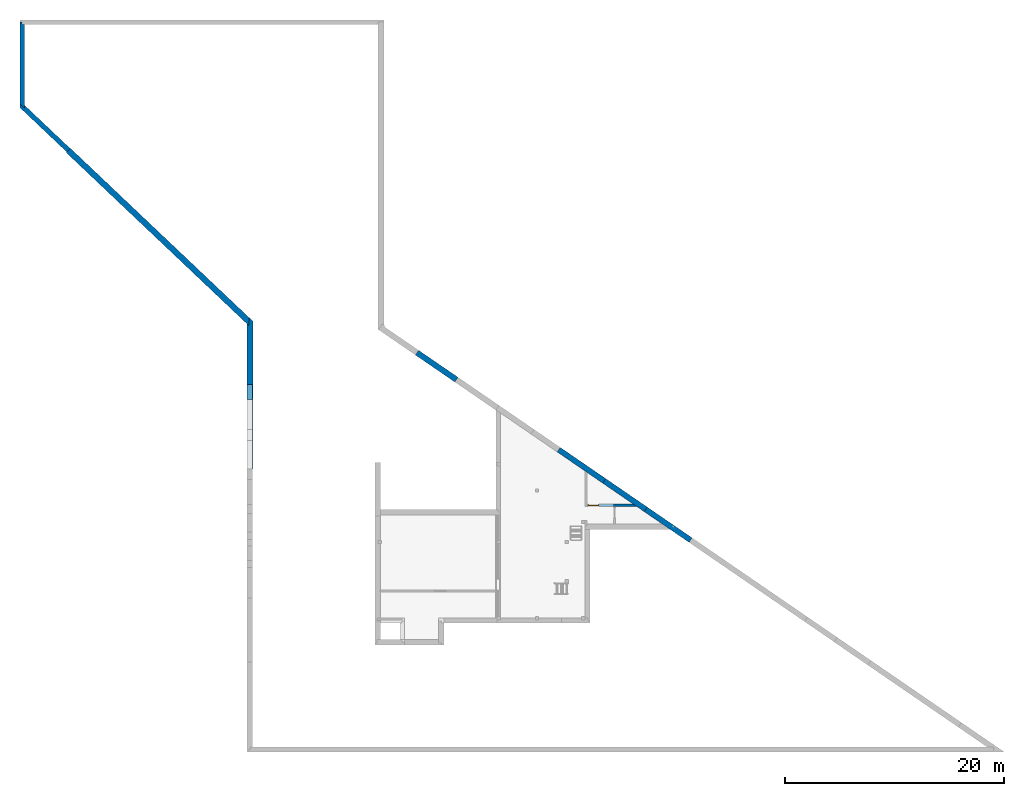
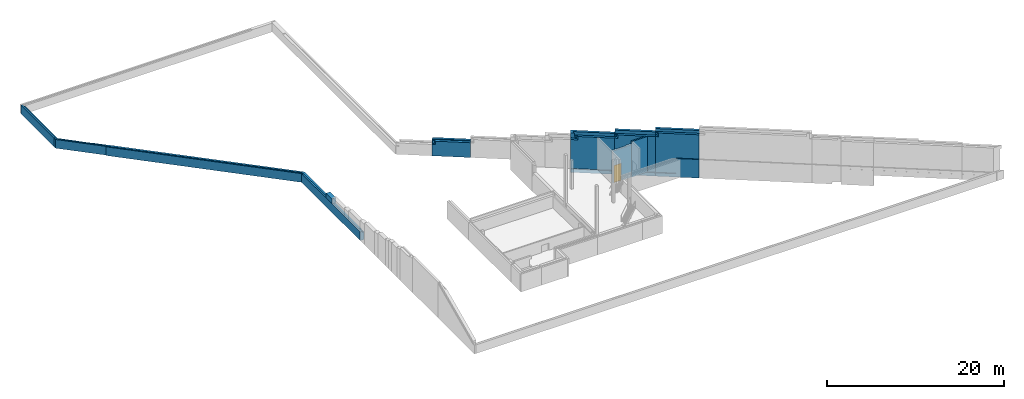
# One storey, part 7 of 8: 10 walls, 1 door, 1 opening, plus 1 element that does not belong to this part.
"""IFC2X3 building model written with IfcOpenShell, lengths in millimetres."""

import ifcopenshell
import ifcopenshell.guid

model = None  # the IFC model being written
_history = None  # IfcOwnerHistory: only IFC2X3 demands one
_inside = {}  # id of a spatial element -> (the spatial element, [elements in it])
_under = {}  # id of a project, library or spatial element -> (it, [spatial elements below it])
_declared = {}  # id of a project -> (the project, [libraries it declares])
_typed = {}  # id of a type object -> (the type object, [elements of that type])
_made_of = {}  # id of a material, layer set ... -> (it, [elements and type objects made of it])


def new_model(schema):
    """Start an empty IFC model of exactly this schema.

    Asked for "IFC4X3", IfcOpenShell would pick the latest addendum, in which some entities
    have other attributes; the version numbers below select the first issue.
    IFC2X3 requires an IfcOwnerHistory on every rooted entity: one is made here for all.
    """
    global model, _history
    if schema == "IFC4X3":
        model = ifcopenshell.file(schema_version=(4, 3, 0, 0))
    else:
        model = ifcopenshell.file(schema=schema)
    _inside.clear()
    _under.clear()
    _declared.clear()
    _typed.clear()
    _made_of.clear()
    _history = None
    if model.schema == "IFC2X3":
        org = make("IfcOrganization", Name="unknown")
        user = make(
            "IfcPersonAndOrganization",
            ThePerson=make("IfcPerson", FamilyName="unknown"),
            TheOrganization=org,
        )
        app = make(
            "IfcApplication",
            ApplicationDeveloper=org,
            Version="unknown",
            ApplicationFullName="unknown",
            ApplicationIdentifier="unknown",
        )
        _history = make(
            "IfcOwnerHistory",
            OwningUser=user,
            OwningApplication=app,
            ChangeAction="ADDED",
            CreationDate=0,
        )
    return model


def make(cls, **values):
    """One entity of the class cls with the attributes given. An attribute that is None is left unset."""
    return model.create_entity(
        cls, **{name: value for name, value in values.items() if value is not None}
    )


def entity(cls, *values):
    """Any entity or typed value of the class cls, its attributes in the order of the schema. None: left unset."""
    e = model.create_entity(cls)
    for i, value in enumerate(values):
        if value is not None:
            e[i] = value
    return e


def rooted(cls, **values):
    """An entity with a GlobalId (a new one), such as an element, a storey or a relation."""
    return make(cls, GlobalId=ifcopenshell.guid.new(), OwnerHistory=_history, **values)


def si_unit(unit_type, name, prefix=None):
    """IfcSIUnit, for example si_unit("LENGTHUNIT", "METRE", prefix="MILLI")."""
    return make("IfcSIUnit", UnitType=unit_type, Prefix=prefix, Name=name)


def converted_unit(unit_type, name, factor, base, dimensions=None, offset=None):
    """IfcConversionBasedUnit, such as the inch: factor (a typed value) times the base unit."""
    return make(
        "IfcConversionBasedUnit"
        if offset is None
        else "IfcConversionBasedUnitWithOffset",
        ConversionOffset=offset,
        Dimensions=None
        if dimensions is None
        else entity("IfcDimensionalExponents", *dimensions),
        UnitType=unit_type,
        Name=name,
        ConversionFactor=make(
            "IfcMeasureWithUnit", ValueComponent=factor, UnitComponent=base
        ),
    )


def derived_unit(unit_type, elements):
    """IfcDerivedUnit: a product of units, each with its exponent."""
    return make(
        "IfcDerivedUnit",
        Elements=[
            make("IfcDerivedUnitElement", Unit=unit, Exponent=power)
            for unit, power in elements
        ],
        UnitType=unit_type,
    )


def money_unit(currency):
    """IfcMonetaryUnit."""
    return make("IfcMonetaryUnit", Currency=currency)


def assignment(units):
    """IfcUnitAssignment: the units of a project."""
    return None if units is None else make("IfcUnitAssignment", Units=units)


def point(xyz):
    """IfcCartesianPoint."""
    return None if xyz is None else make("IfcCartesianPoint", Coordinates=xyz)


def direction(xyz):
    """IfcDirection."""
    return None if xyz is None else make("IfcDirection", DirectionRatios=xyz)


def frame(location, z_axis=None, x_axis=None):
    """IfcAxis2Placement3D, a coordinate frame: its origin and axes. An axis left out is left unset."""
    return make(
        "IfcAxis2Placement3D",
        Location=point(location),
        Axis=direction(z_axis),
        RefDirection=direction(x_axis),
    )


def origin_with_axes():
    """The frame at (0, 0, 0) with the z axis (0, 0, 1) and the x axis (1, 0, 0) written out."""
    return frame((0.0, 0.0, 0.0), z_axis=(0.0, 0.0, 1.0), x_axis=(1.0, 0.0, 0.0))


def place(relative_to, where):
    """IfcLocalPlacement: puts the frame where relative to a parent placement (None: the world)."""
    return make(
        "IfcLocalPlacement", PlacementRelTo=relative_to, RelativePlacement=where
    )


def context(
    kind, dimensions, precision=None, world=None, true_north=None, identifier=None
):
    """IfcGeometricRepresentationContext, for example the 3D "Model" context."""
    return make(
        "IfcGeometricRepresentationContext",
        ContextIdentifier=identifier,
        ContextType=kind,
        CoordinateSpaceDimension=dimensions,
        Precision=precision,
        WorldCoordinateSystem=world,
        TrueNorth=true_north,
    )


def subcontext(parent, identifier, kind, view, scale=None):
    """IfcGeometricRepresentationSubContext, for example "Body" below "Model"."""
    return make(
        "IfcGeometricRepresentationSubContext",
        ContextIdentifier=identifier,
        ContextType=kind,
        ParentContext=parent,
        TargetScale=scale,
        TargetView=view,
    )


def project(units=None, contexts=None):
    """IfcProject with its units and contexts."""
    return rooted(
        "IfcProject",
        Name="project",
        RepresentationContexts=contexts,
        UnitsInContext=assignment(units),
    )


def spatial(cls, under=None, at=None, **own):
    """A site, building, storey or space (cls), placed at a placement, below another one or the project."""
    s = rooted(cls, ObjectPlacement=at, **own)
    if under is not None:
        _under.setdefault(under.id(), (under, []))[1].append(s)
    return s


def faces_of(points, faces, orient=None, outer=None):
    """IfcFace entities. A face is a list of loops; a loop is a list of indices into points, from 0.

    orient and outer hold one flag for each loop. By default every Orientation is true, the
    first loop of a face is its IfcFaceOuterBound and the others are IfcFaceBound.
    """
    made = []
    for i, loops in enumerate(faces):
        bounds = []
        for j, loop in enumerate(loops):
            is_outer = j == 0 if outer is None else outer[i][j]
            bounds.append(
                make(
                    "IfcFaceOuterBound" if is_outer else "IfcFaceBound",
                    Bound=make("IfcPolyLoop", Polygon=[points[k] for k in loop]),
                    Orientation=True if orient is None else orient[i][j],
                )
            )
        made.append(make("IfcFace", Bounds=bounds))
    return made


def faceted_brep(points, faces, orient=None, outer=None, voids=None):
    """IfcFacetedBrep: a solid bounded by flat faces; with voids (closed shells), ...WithVoids."""
    shared = [point(p) for p in points]
    hull = make("IfcClosedShell", CfsFaces=faces_of(shared, faces, orient, outer))
    if voids is None:
        return make("IfcFacetedBrep", Outer=hull)
    return make(
        "IfcFacetedBrepWithVoids",
        Outer=hull,
        Voids=[
            make(cls, CfsFaces=faces_of(shared, fs, o, b)) for cls, fs, o, b in voids
        ],
    )


def shape(context_of_items, identifier, shape_type, items):
    """IfcShapeRepresentation: the items that make up one representation, for example the "Body"."""
    return make(
        "IfcShapeRepresentation",
        ContextOfItems=context_of_items,
        RepresentationIdentifier=identifier,
        RepresentationType=shape_type,
        Items=items,
    )


def material(Name=None, Category=None):
    """IfcMaterial."""
    return make("IfcMaterial", Name=Name, Category=Category)


def material_list(materials):
    """IfcMaterialList."""
    return make("IfcMaterialList", Materials=materials)


def made_of(thing, what):
    """Note that an element or type object is made of a material, layer set ...; save() writes the relation."""
    if what is not None:
        _made_of.setdefault(what.id(), (what, []))[1].append(thing)
    return thing


def type_object(cls, material=None, **own):
    """A type object (cls), such as IfcWallType, which elements share."""
    return made_of(rooted(cls, **own), material)


def element(
    cls,
    number,
    at=None,
    inside=None,
    cuts=None,
    type_object=None,
    material=None,
    context=None,
    identifier="Body",
    shape_type=None,
    held_by="IfcProductDefinitionShape",
    body=None,
    shapes=None,
    **own,
):
    """One element of the class cls, such as IfcWall. Its Tag is "e" and its number.

    at: its placement. inside: the storey or other place that contains it. cuts: it is an
    opening in that element (IfcRelVoidsElement). A single representation is given by context,
    identifier, shape_type and body (its items); several are given by shapes. held_by: the class
    of the entity that holds the representations. save() writes the other relations.
    """
    e = rooted(cls, Tag="e%d" % number, ObjectPlacement=at, **own)
    if body is not None:
        shapes = [shape(context, identifier, shape_type, body)]
    if shapes is not None:
        e.Representation = make(held_by, Representations=shapes)
    if inside is not None:
        _inside.setdefault(inside.id(), (inside, []))[1].append(e)
    if cuts is not None:
        rooted(
            "IfcRelVoidsElement", RelatingBuildingElement=cuts, RelatedOpeningElement=e
        )
    if type_object is not None:
        _typed.setdefault(type_object.id(), (type_object, []))[1].append(e)
    return made_of(e, material)


def fill(opening, filler):
    """IfcRelFillsElement: the door or window that sits in an opening."""
    return rooted(
        "IfcRelFillsElement",
        RelatingOpeningElement=opening,
        RelatedBuildingElement=filler,
    )


def aggregate(whole, parts):
    """IfcRelAggregates: a whole, such as a stair, and the parts it consists of."""
    return rooted("IfcRelAggregates", RelatingObject=whole, RelatedObjects=parts)


def save(model, path):
    """Write the relations noted so far, then the file.

    IfcRelAggregates (storeys below a building ...), IfcRelContainedInSpatialStructure (elements
    in a storey), IfcRelDefinesByType, IfcRelAssociatesMaterial and IfcRelDeclares: one each for
    every whole, place, type object, material and project.
    """
    for whole, parts in _under.values():
        aggregate(whole, parts)
    for where, things in _inside.values():
        rooted(
            "IfcRelContainedInSpatialStructure",
            RelatedElements=things,
            RelatingStructure=where,
        )
    for kind, things in _typed.values():
        rooted("IfcRelDefinesByType", RelatedObjects=things, RelatingType=kind)
    for what, things in _made_of.values():
        rooted("IfcRelAssociatesMaterial", RelatedObjects=things, RelatingMaterial=what)
    for by, libraries in _declared.values():
        rooted("IfcRelDeclares", RelatingContext=by, RelatedDefinitions=libraries)
    model.write(path)


model = new_model("IFC2X3")

# Units and contexts
model_context = context("Model", 3, precision=0.01, world=origin_with_axes(), true_north=direction((0.0, 1.0)))
body_context = subcontext(model_context, "Body", "Model", "MODEL_VIEW")
ifc_project = project(units=[si_unit("LENGTHUNIT", "METRE", prefix="MILLI"), si_unit("AREAUNIT", "SQUARE_METRE"), si_unit("VOLUMEUNIT", "CUBIC_METRE"), converted_unit("PLANEANGLEUNIT", "DEGREE", entity("IfcPlaneAngleMeasure", 0.0174532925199), si_unit("PLANEANGLEUNIT", "RADIAN"), dimensions=[0, 0, 0, 0, 0, 0, 0]), si_unit("SOLIDANGLEUNIT", "STERADIAN"), money_unit("EUR"), converted_unit("TIMEUNIT", "Year", entity("IfcTimeMeasure", 31556926.0), si_unit("TIMEUNIT", "SECOND"), dimensions=[0, 0, 1, 0, 0, 0, 0]), si_unit("MASSUNIT", "GRAM", prefix="KILO"), si_unit("THERMODYNAMICTEMPERATUREUNIT", "DEGREE_CELSIUS"), si_unit("LUMINOUSINTENSITYUNIT", "LUMEN"), si_unit("ENERGYUNIT", "JOULE", prefix="MEGA"), derived_unit("THERMALCONDUCTANCEUNIT", [(si_unit("POWERUNIT", "WATT"), 1), (si_unit("LENGTHUNIT", "METRE"), -1), (si_unit("THERMODYNAMICTEMPERATUREUNIT", "KELVIN"), -1)]), derived_unit("SPECIFICHEATCAPACITYUNIT", [(si_unit("ENERGYUNIT", "JOULE"), 1), (si_unit("MASSUNIT", "GRAM", prefix="KILO"), -1), (si_unit("THERMODYNAMICTEMPERATUREUNIT", "KELVIN"), -1)]), derived_unit("MASSDENSITYUNIT", [(si_unit("MASSUNIT", "GRAM", prefix="KILO"), 1), (si_unit("VOLUMEUNIT", "CUBIC_METRE"), -1)])], contexts=[model_context])

# Site, building, storey
site_placement = place(None, origin_with_axes())
site = spatial("IfcSite", under=ifc_project, at=site_placement, Name="L.Koidula tn 11b", CompositionType="ELEMENT")
building_placement = place(site_placement, origin_with_axes())
building = spatial("IfcBuilding", under=site, at=building_placement, Name="Rakvere Riigigümnaasium", CompositionType="ELEMENT")
storey_placement = place(building_placement, frame((0.0, 0.0, -2100.0), z_axis=(0.0, 0.0, 1.0), x_axis=(1.0, 0.0, 0.0)))
storey = spatial("IfcBuildingStorey", under=building, at=storey_placement, Name="1.korrus_tehniline -2,10", CompositionType="ELEMENT", Elevation=-2100.0)

# Wall, opening, door
ifc_material_1 = material(Name="Betoon element / plaat")
wall_type_1 = type_object("IfcWallType", Name="SS-01 200", PredefinedType="NOTDEFINED")
wall_1_placement = place(storey_placement, frame((65899.9980729, 27509.4129866, 0.0), z_axis=(0.0, 0.0, 1.0), x_axis=(1.0, 0.0, 0.0)))
wall_1 = element("IfcWall", 1, at=wall_1_placement, inside=storey, type_object=wall_type_1, material=ifc_material_1, Name="Sisesein", context=body_context, shape_type="Brep", body=[
    faceted_brep([(1302.00000012, 200.0, 2400.0), (1302.00000012, 200.0, 0.0), (1302.00000012, 0.0, 0.0), (1302.00000012, 0.0, 2400.0), (1965.01142906, 200.0, 4495.0), (2634.97113664, 200.0, 4495.0), (2634.97113664, 200.0, 0.0), (302.0, 200.0, 2400.0), (302.0, 200.0, 0.0), (200.0, 200.0, 0.0), (200.0, 200.0, 4445.0), (1965.01142906, 200.0, 4445.0), (2634.97113664, 0.0, 0.0), (302.0, 0.0, 0.0), (302.0, 0.0, 2400.0), (2634.97113664, 0.0, 4495.0), (1965.01142906, 0.0, 4495.0), (1965.01142906, 0.0, 4445.0), (200.0, 0.0, 4445.0), (200.0, 0.0, 0.0)], [[[0, 1, 2, 3]], [[4, 5, 6, 1, 0, 7, 8, 9, 10, 11]], [[6, 12, 2, 1]], [[13, 14, 3, 2, 12, 15, 16, 17, 18, 19]], [[14, 7, 0, 3]], [[5, 4, 16, 15]], [[15, 12, 6, 5]], [[8, 7, 14, 13]], [[9, 8, 13, 19]], [[19, 18, 10, 9]], [[17, 11, 10, 18]], [[17, 16, 4, 11]]]),
])
opening_placement = place(wall_1_placement, frame((802.000000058, 0.0, 0.0), z_axis=(0.0, 0.0, 1.0), x_axis=(1.0, 0.0, 0.0)))
opening = element("IfcOpeningElement", 2, at=opening_placement, cuts=wall_1, Name="SU-031", context=body_context, shape_type="Brep", body=[
    faceted_brep([(500.000000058, 150.0, 0.0), (500.000000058, 150.0, 2400.0), (500.000000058, -200.0, 2400.0), (500.000000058, -200.0, 0.0), (-500.000000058, 150.0, 0.0), (-500.000000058, 150.0, 2400.0), (-500.000000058, -200.0, 2400.0), (-500.000000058, -200.0, 0.0)], [[[0, 1, 2, 3]], [[0, 4, 5, 1]], [[1, 5, 6, 2]], [[3, 2, 6, 7]], [[4, 0, 3, 7]], [[5, 4, 7, 6]]]),
    faceted_brep([(500.000000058, 150.0, 2400.0), (500.000000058, 150.0, 0.0), (500.000000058, 400.0, 0.0), (500.000000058, 400.0, 2400.0), (-500.000000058, 150.0, 2400.0), (-500.000000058, 150.0, 0.0), (-500.000000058, 400.0, 0.0), (-500.000000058, 400.0, 2400.0)], [[[0, 1, 2, 3]], [[0, 4, 5, 1]], [[1, 5, 6, 2]], [[3, 2, 6, 7]], [[4, 0, 3, 7]], [[5, 4, 7, 6]]]),
])
door_style = type_object("IfcDoorStyle", Name="Door 23", ConstructionType="NOTDEFINED", OperationType="SINGLE_SWING_LEFT", ParameterTakesPrecedence=False, Sizeable=False)
door_placement = place(opening_placement, frame((500.000000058, 0.0, 0.0), z_axis=(0.0, 0.0, 1.0), x_axis=(-1.0, 0.0, 0.0)))
door = element("IfcDoor", 3, at=door_placement, inside=storey, type_object=door_style, Name="SU-031", ObjectType="DOOR", OverallHeight=2400.0, OverallWidth=1000.0, context=body_context, shape_type="Brep", body=[
    faceted_brep([(950.000000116, -110.0, 0.0), (950.000000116, -150.0, 0.0), (950.000000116, -150.0, 2350.0), (950.000000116, -110.0, 2350.0), (962.000000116, -110.0, 0.0), (962.000000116, -70.0, 0.0), (1000.00000012, -70.0, 0.0), (1000.00000012, -150.0, 0.0), (1000.00000012, -150.0, 2350.0), (962.000000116, -110.0, 2350.0), (1000.00000012, -70.0, 2350.0), (962.000000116, -70.0, 2350.0)], [[[0, 1, 2, 3]], [[4, 5, 6, 7, 1, 0]], [[1, 7, 8, 2]], [[9, 3, 2, 8, 10, 11]], [[9, 4, 0, 3]], [[11, 5, 4, 9]], [[11, 10, 6, 5]], [[6, 10, 8, 7]]]),
    faceted_brep([(38.0, -110.0, 2350.0), (38.0, -70.0, 2350.0), (0.0, -70.0, 2350.0), (0.0, -150.0, 2350.0), (50.0, -150.0, 2350.0), (50.0, -110.0, 2350.0), (38.0, -110.0, 0.0), (38.0, -70.0, 0.0), (0.0, -70.0, 0.0), (0.0, -150.0, 0.0), (50.0, -150.0, 0.0), (50.0, -110.0, 0.0)], [[[0, 1, 2, 3, 4, 5]], [[0, 6, 7, 1]], [[7, 8, 2, 1]], [[2, 8, 9, 3]], [[3, 9, 10, 4]], [[5, 4, 10, 11]], [[5, 11, 6, 0]], [[6, 11, 10, 9, 8, 7]]]),
    faceted_brep([(962.000000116, -70.0, 2362.0), (38.0, -70.0, 2362.0), (38.0, -70.0, 2350.0), (0.0, -70.0, 2350.0), (0.0, -70.0, 2400.0), (1000.00000012, -70.0, 2400.0), (1000.00000012, -70.0, 2350.0), (962.000000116, -70.0, 2350.0), (962.000000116, -110.0, 2362.0), (38.0, -110.0, 2362.0), (38.0, -110.0, 2350.0), (50.0, -110.0, 2350.0), (50.0, -150.0, 2350.0), (0.0, -150.0, 2350.0), (0.0, -150.0, 2400.0), (1000.00000012, -150.0, 2400.0), (1000.00000012, -150.0, 2350.0), (962.000000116, -110.0, 2350.0), (950.000000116, -150.0, 2350.0), (950.000000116, -110.0, 2350.0)], [[[0, 1, 2, 3, 4, 5, 6, 7]], [[0, 8, 9, 1]], [[1, 9, 10, 2]], [[10, 11, 12, 13, 3, 2]], [[4, 3, 13, 14]], [[5, 4, 14, 15]], [[6, 5, 15, 16]], [[17, 7, 6, 16, 18, 19]], [[7, 17, 8, 0]], [[10, 9, 8, 17, 19, 11]], [[19, 18, 12, 11]], [[12, 18, 16, 15, 14, 13]]]),
    faceted_brep([(38.0, -70.0, 0.0), (962.000000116, -70.0, 0.0), (962.000000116, -110.0, 0.0), (38.0, -110.0, 0.0), (38.0, -70.0, 2362.0), (962.000000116, -70.0, 2362.0), (962.000000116, -110.0, 2362.0), (38.0, -110.0, 2362.0)], [[[0, 1, 2, 3]], [[0, 4, 5, 1]], [[1, 5, 6, 2]], [[3, 2, 6, 7]], [[4, 0, 3, 7]], [[5, 4, 7, 6]]]),
])
fill(opening, door)

# Walls
wall_2_placement = place(storey_placement, frame((68534.9692095, 27509.4129866, 0.0), z_axis=(0.0, 0.0, 1.0), x_axis=(1.0, 0.0, 0.0)))
element("IfcWall", 4, at=wall_2_placement, inside=storey, type_object=wall_type_1, material=ifc_material_1, Name="Sisesein", context=body_context, shape_type="Brep", body=[
    faceted_brep([(1802.17719814, 200.0, 0.0), (1802.17719814, 200.0, 4910.0), (2093.77513218, 0.0, 4910.0), (2093.77513218, 0.0, 0.0), (0.0, 200.0, 0.0), (0.0, 200.0, 4910.0), (0.0, 0.0, 4910.0), (0.0, 0.0, 0.0)], [[[0, 1, 2, 3]], [[4, 5, 1, 0]], [[5, 6, 2, 1]], [[3, 2, 6, 7]], [[7, 4, 0, 3]], [[7, 6, 5, 4]]]),
])
ifc_material_2 = material(Name="SOJ-04_Soojustus - Mineraal Kõva")
ifc_material_list_1 = material_list([ifc_material_1, ifc_material_2])
wall_type_2 = type_object("IfcWallType", Name="VS-04 400", PredefinedType="NOTDEFINED")
wall_3_placement = place(storey_placement, frame((14630.0344055, 71600.4516838, 899.999997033), z_axis=(0.0, 0.0, 1.0), x_axis=(0.0, -1.0, 0.0)))
element("IfcWall", 5, at=wall_3_placement, inside=storey, type_object=wall_type_2, material=ifc_material_list_1, Name="Välissein", context=body_context, shape_type="Brep", body=[
    faceted_brep([(0.0, -200.0, 1093.00000297), (0.0, -100.0, 1093.00000297), (0.0, 0.0, 1093.00000297), (0.0, 0.0, 0.0), (0.0, -200.0, 0.0), (7657.65942168, 0.0, 1093.00000297), (7468.20903662, -200.0, 1093.00000297), (7657.65942168, 0.0, 0.0), (7468.20903662, -200.0, 0.0)], [[[0, 1, 2, 3, 4]], [[5, 2, 1, 0, 6]], [[2, 5, 7, 3]], [[7, 8, 4, 3]], [[6, 0, 4, 8]], [[5, 6, 8, 7]]]),
    faceted_brep([(7468.20903662, -200.0, 0.0), (7278.75865156, -400.0, 0.0), (-200.0, -400.0, 0.0), (-200.0, -200.0, 0.0), (7468.20903662, -200.0, 1199.99990855), (7278.75865156, -400.0, 1199.99990855), (-200.0, -400.0, 1199.99990855), (-200.0, -200.0, 1199.99990855)], [[[0, 1, 2, 3]], [[1, 0, 4, 5]], [[1, 5, 6, 2]], [[7, 3, 2, 6]], [[4, 0, 3, 7]], [[5, 4, 7, 6]]]),
])
wall_type_3 = type_object("IfcWallType", Name="VS-08 550", PredefinedType="NOTDEFINED")
wall_4_placement = place(storey_placement, frame((18835.447544, 60269.1260987, 899.999997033), z_axis=(0.0, 0.0, 1.0), x_axis=(0.725916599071, -0.687782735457, 0.0)))
element("IfcWall", 6, at=wall_4_placement, inside=storey, type_object=wall_type_3, material=ifc_material_list_1, Name="Välissein", context=body_context, shape_type="Brep", body=[
    faceted_brep([(0.0, 0.0, 1110.00000297), (22508.8564293, 0.0, 1110.00000297), (22508.8564293, 0.0, 0.0), (0.0, 0.0, 0.0), (22840.4702232, -350.0, 1110.00000297), (0.0, -350.0, 1110.00000297), (22840.4702232, -350.0, 0.0), (0.0, -350.0, 0.0)], [[[0, 1, 2, 3]], [[4, 1, 0, 5]], [[1, 4, 6, 2]], [[2, 6, 7, 3]], [[5, 0, 3, 7]], [[4, 5, 7, 6]]]),
    faceted_brep([(0.0, -350.0, 1010.00000297), (22840.4702232, -350.0, 1010.00000297), (22840.4702232, -350.0, 0.0), (0.0, -350.0, 0.0), (22852.9192984, -363.13930971, 1010.00000297), (0.0, -362.372005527, 1010.00000297), (57.5311176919, -362.276699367, 1010.00000297), (57.5951045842, -400.902087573, 1010.00000297), (22852.9192984, -363.13930971, 1200.00000297), (23029.9638196, -550.0, 1199.99990855), (23029.9638196, -550.0, 0.0), (0.0, -550.0, 0.0), (0.0, -550.0, 1199.99990855), (0.0, -362.372005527, 1200.00000297), (57.5311176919, -362.276699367, 1200.00000297), (57.5951045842, -400.902087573, 1200.00000297)], [[[0, 1, 2, 3]], [[4, 1, 0, 5, 6, 7]], [[4, 8, 9, 10, 2, 1]], [[2, 10, 11, 3]], [[5, 0, 3, 11, 12, 13]], [[6, 5, 13, 14]], [[7, 6, 14, 15]], [[4, 7, 15, 8]], [[14, 13, 12, 9, 8, 15]], [[10, 9, 12, 11]]]),
])
wall_type_4 = type_object("IfcWallType", Name="VS-07 500", PredefinedType="NOTDEFINED")
wall_5_placement = place(storey_placement, frame((35500.0000521, 38630.4555152, 2100.0), z_axis=(0.0, 0.0, 1.0), x_axis=(0.0, -1.0, 0.0)))
element("IfcWall", 7, at=wall_5_placement, inside=storey, type_object=wall_type_4, material=ifc_material_list_1, Name="Välissein", context=body_context, shape_type="Brep", body=[
    faceted_brep([(1340.11443478, 0.0, 0.0), (1340.11443478, -300.0, 0.0), (0.0, -300.0, 0.0), (0.0, 0.0, 0.0), (1340.11443478, 0.0, 675.0), (1340.11443478, -300.0, 675.0), (0.0, -300.0, 675.0), (0.0, 0.0, 675.0)], [[[0, 1, 2, 3]], [[0, 4, 5, 1]], [[1, 5, 6, 2]], [[3, 2, 6, 7]], [[4, 0, 3, 7]], [[5, 4, 7, 6]]]),
    faceted_brep([(1340.11443478, -300.0, 0.0), (1340.11443478, -500.0, 0.0), (0.0, -500.0, 0.0), (0.0, -300.0, 0.0), (1340.11443478, -300.0, 675.0), (1340.11443478, -500.0, 675.0), (0.0, -500.0, 675.0), (0.0, -300.0, 675.0)], [[[0, 1, 2, 3]], [[0, 4, 5, 1]], [[1, 5, 6, 2]], [[3, 2, 6, 7]], [[4, 0, 3, 7]], [[5, 4, 7, 6]]]),
])
wall_type_5 = type_object("IfcWallType", Name="VS-05 450", PredefinedType="NOTDEFINED")
wall_6_placement = place(storey_placement, frame((14630.0344055, 64218.2762878, 899.999997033), z_axis=(0.0, 0.0, 1.0), x_axis=(0.725994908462, -0.687700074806, 0.0)))
element("IfcWall", 8, at=wall_6_placement, inside=storey, type_object=wall_type_5, material=ifc_material_list_1, Name="Välissein", context=body_context, shape_type="Brep", body=[
    faceted_brep([(0.0, 0.0, 1093.00000297), (2358.0959091, -1.28039800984e-08, 1093.00000297), (2358.09590909, 0.0, 1080.00000297), (4184.7045589, 0.0, 1080.00000297), (4184.7045589, 0.0, 1110.00000297), (5768.93656036, 0.0, 1110.00000297), (5768.93656036, 0.0, 0.0), (0.0, 0.0, 0.0), (2547.54629416, -200.000000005, 1093.00000297), (189.450385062, -200.0, 1093.00000297), (2547.54629415, -200.0, 1080.00000297), (3973.56748474, -200.0, 1080.00000297), (3973.56748474, -200.0, 1110.00000297), (5768.93656036, -200.0, 1110.00000297), (5768.93656036, -200.0, 0.0), (189.450385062, -200.0, 0.0)], [[[0, 1, 2, 3, 4, 5, 6, 7]], [[8, 1, 0, 9]], [[1, 8, 10, 2]], [[3, 2, 10, 11]], [[12, 4, 3, 11]], [[13, 5, 4, 12]], [[5, 13, 14, 6]], [[7, 6, 14, 15]], [[9, 0, 7, 15]], [[8, 9, 15, 14, 13, 12, 11, 10]]]),
    faceted_brep([(-86.0336406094, -200.0, 993.000002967), (2547.54629416, -200.000000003, 993.000002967), (2547.54629415, -200.0, 980.000002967), (3973.56748474, -200.0, 980.000002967), (3973.56748474, -200.0, 1010.00000297), (5768.93656036, -200.0, 1010.00000297), (5768.93656036, -200.0, 0.0), (-361.517666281, -200.0, 0.0), (-361.517666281, -200.0, 1199.99990855), (-86.033640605, -200.000000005, 1200.00000297), (2682.18299282, -342.13399315, 993.000002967), (-12.759637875, -277.354292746, 993.000002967), (59.8398529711, -208.584285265, 993.000002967), (189.987067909, -345.978796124, 993.000002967), (2682.18299282, -342.13399315, 980.000002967), (3825.38057042, -340.370339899, 980.000002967), (3825.38057042, -340.370339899, 1010.00000297), (5768.93656036, -337.371944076, 1010.00000297), (5768.93656036, -337.371944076, 1200.00000297), (5768.93656036, -450.0, 1199.99990855), (5768.93656036, -450.0, 0.0), (-124.704684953, -450.0, 0.0), (-124.704684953, -450.0, 1199.99990855), (-12.759637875, -277.354292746, 1200.00000297), (189.987067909, -345.978796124, 1200.00000297), (59.8398529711, -208.584285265, 1200.00000297)], [[[0, 1, 2, 3, 4, 5, 6, 7, 8, 9]], [[10, 1, 0, 11, 12, 13]], [[1, 10, 14, 2]], [[3, 2, 14, 15]], [[16, 4, 3, 15]], [[17, 5, 4, 16]], [[17, 18, 19, 20, 6, 5]], [[7, 6, 20, 21]], [[8, 7, 21, 22]], [[23, 9, 8, 22, 19, 18, 24, 25]], [[11, 0, 9, 23]], [[12, 11, 23, 25]], [[24, 13, 12, 25]], [[24, 18, 17, 16, 15, 14, 10, 13]], [[21, 20, 19, 22]]]),
])
ifc_material_3 = material(Name="Betoon")
ifc_material_list_2 = material_list([ifc_material_3, ifc_material_2, ifc_material_1])
wall_type_6 = type_object("IfcWallType", Name="VS-07-1 600", PredefinedType="NOTDEFINED")
wall_7_placement = place(storey_placement, frame((71339.9980729, 27021.5811825, -550.0), z_axis=(0.0, 0.0, 1.0), x_axis=(0.82466553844, -0.565620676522, 0.0)))
element("IfcWall", 9, at=wall_7_placement, inside=storey, type_object=wall_type_6, material=ifc_material_list_2, Name="Välissein", context=body_context, shape_type="Brep", body=[
    faceted_brep([(4977.88026954, 500.0, 5791.10455039), (4977.88026954, 600.0, 5791.10456305), (4977.88026954, 600.0, 6370.0), (4977.88026954, 500.0, 6370.0), (0.0, 600.0, 5283.71040776), (0.0, 500.0, 5283.7103951), (0.0, 600.0, 6370.0), (0.0, 500.0, 6370.0)], [[[0, 1, 2, 3]], [[4, 1, 0, 5]], [[1, 4, 6, 2]], [[3, 2, 6, 7]], [[5, 0, 3, 7]], [[4, 5, 7, 6]]]),
    faceted_brep([(4977.88026954, 499.78011539, 0.0), (4977.88026954, 499.78011539, 5791.10455037), (4977.88026954, 500.0, 5791.10455039), (4977.88026954, 500.0, 6370.0), (4977.88026954, 300.0, 6370.0), (4977.88026954, 300.0, 0.0), (0.0, 499.773932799, 0.0), (0.0, 499.773932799, 5283.71039507), (0.0, 500.0, 5283.7103951), (0.0, 500.0, 6370.0), (0.0, 300.0, 6370.0), (0.0, 300.0, 0.0)], [[[0, 1, 2, 3, 4, 5]], [[1, 0, 6, 7]], [[8, 2, 1, 7]], [[2, 8, 9, 3]], [[4, 3, 9, 10]], [[5, 4, 10, 11]], [[6, 0, 5, 11]], [[7, 6, 11, 10, 9, 8]]]),
    faceted_brep([(3021.71042042, 349.994643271, 550.0), (3021.71042042, 349.994643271, 60.0), (2868.12783013, 349.994494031, 60.0), (2868.12783013, 349.994494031, 550.0), (2972.57531111, 421.632815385, 550.0), (2972.57531111, 421.632815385, 60.0)], [[[0, 1, 2, 3]], [[4, 5, 1, 0]], [[1, 5, 2]], [[3, 2, 5, 4]], [[4, 0, 3]]]),
    faceted_brep([(0.00293041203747, 299.999837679, 5975.0), (4977.88026954, 299.998601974, 5975.0), (4977.88026954, 299.999998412, 2640.0), (2777.55388677, 299.997867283, 2640.0), (2777.55388677, 299.997867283, 2560.0), (4977.88026954, 299.999998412, 2560.0), (4977.88026954, 300.0, 0.0), (0.0, 300.0, 0.0), (0.000225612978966, 299.991724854, 460.0), (2775.78089827, 299.994422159, 460.0), (2775.78089827, 299.994422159, 540.0), (0.000264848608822, 299.991724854, 540.0), (0.00267783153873, 300.000360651, 5460.0), (182.272158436, 300.000617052, 5460.0), (182.272158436, 300.000617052, 5725.0), (0.00280779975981, 300.000360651, 5725.0), (249.759894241, 201.604409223, 5975.0), (388.036100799, 0.0, 5975.0), (4977.88026954, 0.0, 5975.0), (0.00332005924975, -0.00491513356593, 5975.0), (24.2522563, 0.0, 5975.0), (2.36023270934, 31.9182062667, 5975.0), (4977.88026954, 0.0, 2640.0), (2340.16198612, 0.0, 2640.0), (2340.16198612, 0.0, 2560.0), (4977.88026954, 0.0, 2560.0), (4977.88026954, 0.0, 0.0), (0.0, 0.0, 0.0), (0.000255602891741, -0.000378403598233, 460.0), (2338.39402055, 0.0, 460.0), (2338.39402055, 0.0, 540.0), (0.000300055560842, -0.00044421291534, 540.0), (0.00303389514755, -0.00449148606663, 5460.0), (388.036235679, 0.0, 5460.0), (249.759990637, 201.604475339, 5725.0), (24.2522563, 0.0, 5725.0), (0.00318114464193, -0.00470947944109, 5725.0), (2.36023270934, 31.9182062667, 5725.0)], [[[0, 1, 2, 3, 4, 5, 6, 7, 8, 9, 10, 11, 12, 13, 14, 15]], [[16, 17, 18, 1, 0, 19, 20, 21]], [[1, 18, 22, 2]], [[23, 3, 2, 22]], [[23, 24, 4, 3]], [[4, 24, 25, 5]], [[26, 6, 5, 25]], [[6, 26, 27, 7]], [[7, 27, 28, 8]], [[28, 29, 9, 8]], [[29, 30, 10, 9]], [[30, 31, 11, 10]], [[11, 31, 32, 12]], [[32, 33, 13, 12]], [[17, 16, 34, 14, 13, 33]], [[35, 36, 15, 14, 34, 37]], [[19, 0, 15, 36]], [[24, 23, 22, 18, 17, 33, 32, 31, 30, 29, 28, 27, 26, 25]], [[20, 19, 36, 35]], [[21, 20, 35, 37]], [[16, 21, 37, 34]]]),
])
wall_8_placement = place(storey_placement, frame((63376.0961928, 32483.8360894, -550.0), z_axis=(0.0, 0.0, 1.0), x_axis=(0.824666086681, -0.565619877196, 0.0)))
element("IfcWall", 10, at=wall_8_placement, inside=storey, type_object=wall_type_6, material=ifc_material_list_2, Name="Välissein", context=body_context, shape_type="Brep", body=[
    faceted_brep([(5049.99996791, 500.0, 4814.10771919), (5049.99996791, 600.0, 4814.10772197), (5049.99996791, 600.0, 5440.00002513), (5049.99996791, 500.0, 5440.00002513), (0.0, 600.0, 4299.36242292), (0.0, 500.0, 4299.36242014), (0.0, 600.0, 5440.00002513), (0.0, 500.0, 5440.00002513)], [[[0, 1, 2, 3]], [[4, 1, 0, 5]], [[1, 4, 6, 2]], [[2, 6, 7, 3]], [[5, 0, 3, 7]], [[4, 5, 7, 6]]]),
    faceted_brep([(5049.99996791, 499.77750118, 0.0), (5049.99996791, 499.77750118, 4814.10771918), (5049.99996791, 500.0, 4814.10771919), (5049.99996791, 500.0, 5440.00002513), (5049.99996791, 300.0, 5440.00002513), (5049.99996791, 300.009715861, 5340.0), (5049.99996791, 300.0, 5260.0), (5049.99996791, 300.0, 0.0), (0.0, 499.776123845, 0.0), (0.0, 499.776123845, 4299.36242014), (0.0, 500.0, 4299.36242014), (0.0, 500.0, 5440.00002513), (0.0, 300.0, 5440.00002513), (296.166871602, 300.0, 5440.0), (296.156891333, 300.014551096, 5440.0), (320.409148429, 300.014526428, 5440.0), (320.419111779, 300.0, 5440.0), (320.419111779, 300.0, 5340.0), (296.156891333, 300.014551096, 5260.0), (320.409148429, 300.014526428, 5340.0), (296.166871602, 300.0, 5260.0), (0.0, 300.0, 4875.0), (684.202714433, 300.0, 4875.0), (684.202714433, 300.0, 4530.0), (0.0, 300.0, 4530.0), (0.0, 300.0, 0.0), (0.0, 300.023913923, 4530.0), (0.0, 300.023913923, 4875.0), (684.18579747, 300.024664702, 4875.0), (684.18579747, 300.024664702, 4530.0)], [[[0, 1, 2, 3, 4, 5, 6, 7]], [[1, 0, 8, 9]], [[10, 2, 1, 9]], [[2, 10, 11, 3]], [[4, 3, 11, 12, 13, 14, 15, 16]], [[16, 17, 5, 4]], [[18, 6, 5, 19, 15, 14]], [[7, 6, 20, 13, 12, 21, 22, 23, 24, 25]], [[8, 0, 7, 25]], [[9, 8, 25, 24, 26, 27, 21, 12, 11, 10]], [[14, 13, 20, 18]], [[15, 19, 17, 16]], [[19, 5, 17]], [[20, 6, 18]], [[28, 22, 21, 27]], [[29, 23, 22, 28]], [[29, 26, 24, 23]], [[26, 29, 28, 27]]]),
    faceted_brep([(0.0, 300.0, 0.0), (0.0, 299.996526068, 460.0), (5049.99996791, 299.996538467, 460.0), (5049.99996791, 300.0, 0.0), (0.0, 0.0, 0.0), (0.0, 0.0, 460.0), (5049.99996791, 0.0, 460.0), (5049.99996791, 0.0, 0.0)], [[[0, 1, 2, 3]], [[4, 5, 1, 0]], [[5, 6, 2, 1]], [[3, 2, 6, 7]], [[4, 0, 3, 7]], [[7, 6, 5, 4]]]),
    faceted_brep([(320.409148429, 300.014526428, 4995.0), (684.202714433, 300.0, 4795.0), (296.166871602, 300.0, 4995.0), (5049.99996792, 300.009715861, 4995.0), (0.0, 300.0, 4795.0), (526.182348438, 0.0, 4995.0), (518.423429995, 11.3123975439, 4995.0), (765.823255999, 180.998360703, 4995.0), (889.965951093, 0.0, 4995.0), (5049.99996791, 0.0, 4995.0), (501.930108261, 0.0, 4995.0), (684.202714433, 300.0, 4530.0), (765.823255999, 180.998360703, 4795.0), (518.423429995, 11.3123975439, 4795.0), (526.182348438, 0.0, 4795.0), (0.0, 0.0, 4795.0), (296.166871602, 300.0, 5440.0), (889.965951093, 0.0, 4530.0), (5049.99996791, 0.0, 540.0), (0.0, 0.0, 4530.0), (0.0, 0.0, 540.0), (5049.99996791, 299.996538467, 540.0), (501.930108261, 0.0, 5440.0), (0.0, 0.0, 5440.00002513), (0.0, 299.996526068, 540.0), (0.0, 300.0, 5440.00002513), (0.0, 300.0, 4530.0)], [[[0, 1, 2]], [[1, 0, 3]], [[2, 1, 4]], [[5, 6, 7, 8, 9, 3, 0, 2, 10]], [[1, 3, 11]], [[12, 13, 14, 15, 4, 1]], [[2, 4, 16]], [[13, 6, 5, 14]], [[12, 7, 6, 13]], [[8, 7, 12, 1, 11, 17]], [[18, 9, 8, 17, 19, 20]], [[21, 3, 9, 18]], [[22, 10, 2, 16]], [[22, 23, 15, 14, 5, 10]], [[11, 3, 24]], [[23, 25, 4, 15]], [[16, 4, 25]], [[19, 17, 11, 26]], [[26, 24, 20, 19]], [[20, 24, 21, 18]], [[24, 3, 21]], [[22, 16, 25, 23]], [[11, 24, 26]]]),
])
wall_9_placement = place(storey_placement, frame((67540.6599041, 29627.4557277, -550.0), z_axis=(0.0, 0.0, 1.0), x_axis=(0.82466667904, -0.565619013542, 0.0)))
element("IfcWall", 11, at=wall_9_placement, inside=storey, type_object=wall_type_6, material=ifc_material_list_2, Name="Välissein", context=body_context, shape_type="Brep", body=[
    faceted_brep([(4607.11977982, 500.0, 5283.71029233), (4607.11977982, 600.0, 5283.71028443), (4607.11977982, 600.0, 5905.0), (4607.11977982, 500.0, 5905.0), (0.0, 600.0, 4814.10765792), (0.0, 500.0, 4814.10766582), (0.0, 600.0, 5905.0), (0.0, 500.0, 5905.0)], [[[0, 1, 2, 3]], [[4, 1, 0, 5]], [[1, 4, 6, 2]], [[2, 6, 7, 3]], [[5, 0, 3, 7]], [[4, 5, 7, 6]]]),
    faceted_brep([(4607.11977982, 499.773932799, 0.0), (4607.11977982, 499.773932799, 5283.71029234), (4607.11977982, 500.0, 5283.71029233), (4607.11977982, 500.0, 5905.0), (4607.11977982, 300.0, 5905.0), (4607.11977982, 300.0, 0.0), (0.0, 499.77750118, 0.0), (0.0, 499.77750118, 4814.10766583), (0.0, 500.0, 4814.10766582), (0.0, 500.0, 5905.0), (0.0, 300.0, 5905.0), (0.0, 300.0, 0.0)], [[[0, 1, 2, 3, 4, 5]], [[1, 0, 6, 7]], [[8, 2, 1, 7]], [[2, 8, 9, 3]], [[3, 9, 10, 4]], [[4, 10, 11, 5]], [[6, 0, 5, 11]], [[7, 6, 11, 10, 9, 8]]]),
    faceted_brep([(0.0, 300.0, 0.0), (-3.60955709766e-09, 299.996538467, 460.0), (4607.11977981, 299.991724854, 460.0), (4607.11977982, 300.0, 0.0), (0.0, 0.0, 0.0), (0.0, 0.0, 460.0), (4607.11977982, 0.0, 460.0), (4607.11977982, 0.0, 0.0)], [[[0, 1, 2, 3]], [[4, 5, 1, 0]], [[5, 6, 2, 1]], [[3, 2, 6, 7]], [[0, 3, 7, 4]], [[7, 6, 5, 4]]]),
    faceted_brep([(4607.11977982, 300.000360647, 5460.0), (187.540761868, 300.009328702, 4995.0), (187.540761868, 300.009328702, 5260.0), (-3.62376795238e-09, 299.996538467, 540.0), (263.964697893, 188.584019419, 5460.0), (263.964697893, 188.584019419, 5260.0), (393.309934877, 0.0, 4995.0), (393.309934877, 0.0, 5460.0), (0.000424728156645, 300.003170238, 5460.0), (4607.11977981, 299.991724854, 540.0), (0.000384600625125, 300.00971586, 4995.0), (16.5646941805, 18.8983153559, 5460.0), (16.5646941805, 18.8983153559, 5260.0), (0.0, 0.0, 5260.0), (0.000407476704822, 300.00971586, 5260.0), (29.5265935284, 0.0, 5260.0), (0.0, 0.0, 4995.0), (0.0, 0.0, 540.0), (4607.11977982, 0.0, 540.0), (4607.11977982, 0.0, 5460.0), (5.2743707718, 0.0, 5460.0), (29.5265935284, 0.0, 5460.0), (0.0713605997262, 7.58593508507, 5460.0), (0.0, 0.0, 5905.0), (0.000424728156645, 300.003170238, 5905.0), (5.2743707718, 0.0, 5905.0), (0.0713605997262, 7.58593508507, 5905.0)], [[[0, 1, 2]], [[1, 0, 3]], [[4, 5, 2, 1, 6, 7]], [[0, 2, 8]], [[3, 0, 9]], [[1, 3, 10]], [[11, 12, 5, 4]], [[13, 14, 2, 5, 12, 15]], [[6, 1, 10, 16]], [[7, 6, 16, 17, 18, 19]], [[20, 21, 11, 4, 7, 19, 0, 8, 22]], [[8, 2, 14]], [[18, 9, 0, 19]], [[18, 17, 3, 9]], [[17, 16, 10, 3]], [[21, 15, 12, 11]], [[8, 14, 13, 23, 24]], [[23, 13, 15, 21, 20, 25]], [[22, 8, 24, 26]], [[26, 25, 20, 22]], [[26, 24, 23, 25]]]),
])
wall_type_7 = type_object("IfcWallType", Name="VS-08-2 625", PredefinedType="NOTDEFINED")
wall_10_placement = place(storey_placement, frame((50411.4955888, 41345.6438084, 900.0), z_axis=(0.0, 0.0, 1.0), x_axis=(0.824666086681, -0.565619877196, 0.0)))
element("IfcWall", 12, at=wall_10_placement, inside=storey, type_object=wall_type_7, material=ifc_material_list_2, Name="Välissein", context=body_context, shape_type="Brep", body=[
    faceted_brep([(4358.99995159, 525.0, 1692.98138148), (4358.99995159, 625.0, 1692.98138426), (4358.99995159, 625.0, 2129.82181515), (4358.99995159, 525.0, 2129.82181515), (0.0, 625.0, 1248.669553), (0.0, 525.0, 1248.66955022), (0.0, 625.0, 2129.82181515), (0.0, 525.0, 2129.82181515)], [[[0, 1, 2, 3]], [[4, 1, 0, 5]], [[1, 4, 6, 2]], [[2, 6, 7, 3]], [[5, 0, 3, 7]], [[4, 5, 7, 6]]]),
    faceted_brep([(4358.99995159, 524.776538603, 0.0), (4358.99995159, 524.776538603, 1692.98138147), (4358.99995159, 525.0, 1692.98138148), (4358.99995159, 525.0, 2129.82181515), (4358.99995159, 350.0, 2129.82181515), (4358.99995159, 350.0, 0.0), (0.0, 524.775349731, 0.0), (0.0, 524.775349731, 1248.66955021), (0.0, 525.0, 1248.66955022), (0.0, 525.0, 2129.82181515), (0.0, 350.0, 2129.82181515), (0.0, 350.0, 0.0)], [[[0, 1, 2, 3, 4, 5]], [[1, 0, 6, 7]], [[8, 2, 1, 7]], [[2, 8, 9, 3]], [[3, 9, 10, 4]], [[4, 10, 11, 5]], [[6, 0, 5, 11]], [[7, 6, 11, 10, 9, 8]]]),
    faceted_brep([(11.8459288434, 33.1237205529, 2039.82181515), (11.8459288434, 33.1237205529, 1654.82181627), (259.245755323, 202.809684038, 1654.82181627), (259.245754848, 202.809683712, 2039.82181515), (34.5647420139, 0.0, 2039.82181515), (34.5647420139, 0.0, 1654.82181627), (175.438165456, 325.000010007, 1654.82181627), (0.0, 0.0, 1654.82181627), (0.0, 325.000016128, 1654.82181627), (259.245755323, 202.809684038, 1574.82181627), (259.245754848, 202.809683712, 1564.82181627), (398.348344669, 0.0, 1564.82181627), (398.348344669, 0.0, 2039.82181515), (4358.99995159, 324.999931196, 2039.82181515), (0.0, 324.999984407, 2039.82181515), (0.0, 15.0354873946, 2039.82181515), (10.3125018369, 0.0, 2039.82181515), (4358.99995159, 0.0, 2039.82181515), (0.0, 0.0, 2129.82181515), (10.3125018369, 0.0, 2129.82181515), (175.438165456, 325.000010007, 1574.82181627), (0.0, 325.000016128, 1574.82181627), (0.0, 15.0354873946, 2129.82181515), (0.0, 324.999984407, 2129.82178654), (0.0, 350.0, 2129.82181515), (0.0, 350.0, 0.0), (0.0, 0.0, 0.0), (0.0, 0.0, 1574.82181627), (11.8459288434, 33.1237205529, 1574.82181627), (11.8459288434, 33.1237205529, 1564.82181627), (34.5647420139, 0.0, 1564.82181627), (34.5647420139, 0.0, 1574.82181627), (4358.99995159, 0.0, 0.0), (4358.99995159, 324.999931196, 2129.821814), (4358.99995159, 350.0, 0.0), (4358.99995159, 350.0, 2129.82181515)], [[[0, 1, 2, 3]], [[4, 5, 1, 0]], [[6, 2, 1, 5, 7, 8]], [[3, 2, 9, 10, 11, 12]], [[13, 14, 15, 16, 4, 0, 3, 12, 17]], [[18, 7, 5, 4, 16, 19]], [[20, 9, 2, 6]], [[21, 8, 7, 18, 22, 15, 14, 23, 24, 25, 26, 27]], [[6, 8, 21, 20]], [[10, 9, 28, 29]], [[10, 29, 30, 11]], [[30, 31, 27, 26, 32, 17, 12, 11]], [[33, 23, 14, 13]], [[19, 16, 15, 22]], [[33, 13, 17, 32, 34, 35]], [[18, 19, 22]], [[31, 28, 9, 20, 21, 27]], [[24, 23, 33, 35]], [[34, 25, 24, 35]], [[32, 26, 25, 34]], [[29, 28, 31, 30]]]),
])
wall_type_8 = type_object("IfcWallType", Name="VS-08-1 525", PredefinedType="NOTDEFINED")
wall_11_placement = place(storey_placement, frame((35525.0000521, 44456.3094579, 899.999997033), z_axis=(0.0, 0.0, 1.0), x_axis=(0.0, -1.0, 0.0)))
element("IfcWall", 13, at=wall_11_placement, inside=storey, type_object=wall_type_8, material=ifc_material_list_1, Name="Välissein", context=body_context, shape_type="Brep", body=[
    faceted_brep([(12955.8539427, -224.981675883, 1110.00000297), (12955.8539428, 0.0, 1110.00000297), (0.0, 0.0, 1110.00000297), (-331.613793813, -350.0, 1110.00000297), (168.635560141, -350.0, 1110.00000297), (192.24378971, -325.0, 1110.00000297), (12955.8539401, -325.0, 1110.00000297), (12955.8539428, 0.0, 1040.00000297), (12955.8539427, -224.981675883, 1040.00000297), (13545.8539326, 0.0, 1040.00000297), (13545.8539326, 0.0, 0.0), (0.0, 0.0, 0.0), (-331.613793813, -350.0, 0.0), (13545.8539326, -350.0, 0.0), (13545.8539326, -350.0, 1199.99990855), (168.635560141, -350.0, 1200.00000297), (192.24378971, -325.0, 1200.00000297), (12955.8539401, -325.0, 1200.00000297), (12955.8539427, -224.981675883, 1200.00000297), (13545.8539326, -224.982568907, 1040.00000297), (13545.8539326, -224.982568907, 1200.00000297)], [[[0, 1, 2, 3, 4, 5, 6]], [[7, 1, 0, 8]], [[7, 9, 10, 11, 2, 1]], [[3, 2, 11, 12]], [[4, 3, 12, 13, 14, 15]], [[5, 4, 15, 16]], [[5, 16, 17, 6]], [[0, 6, 17, 18]], [[19, 8, 0, 18, 20]], [[9, 7, 8, 19]], [[19, 20, 14, 13, 10, 9]], [[11, 10, 13, 12]], [[20, 18, 17, 16, 15, 14]]]),
    faceted_brep([(426.049002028, -350.0, 0.0), (13545.8539326, -350.0, 0.0), (13545.8539326, -525.0, 0.0), (260.242105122, -525.0, 0.0), (426.049002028, -350.0, 1199.99990855), (13545.8539326, -350.0, 1199.99990855), (13545.8539326, -525.0, 1199.99990855), (260.242105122, -525.0, 1199.99990855)], [[[0, 1, 2, 3]], [[4, 5, 1, 0]], [[2, 1, 5, 6]], [[3, 2, 6, 7]], [[4, 0, 3, 7]], [[7, 6, 5, 4]]]),
])

save(model, "model.ifc")
